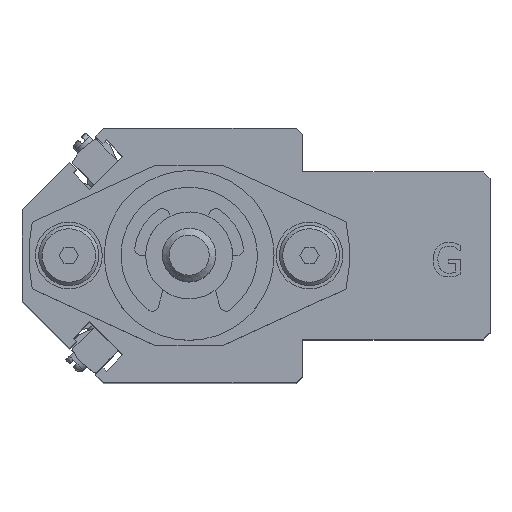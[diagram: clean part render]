
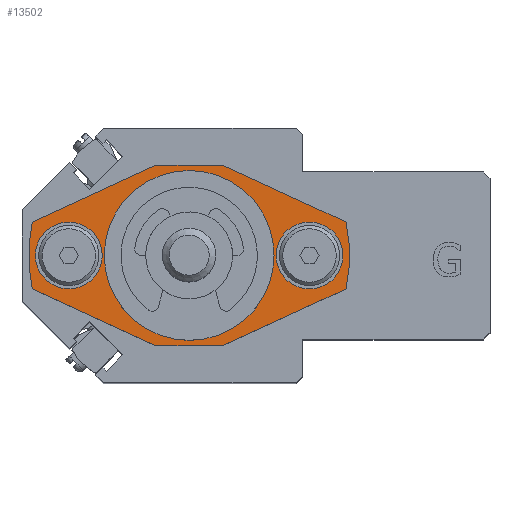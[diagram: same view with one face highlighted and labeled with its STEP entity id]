
A CAD part, top view. The second image highlights one B-rep face of the part: STEP entity #13502.
In plain terms, the highlighted planar face has unit normal (0, 0, 1).
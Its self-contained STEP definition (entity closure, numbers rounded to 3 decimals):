
#382=FACE_BOUND('',#4886,.T.);
#383=FACE_BOUND('',#4887,.T.);
#384=FACE_BOUND('',#4888,.T.);
#1575=LINE('',#22053,#2966);
#1582=LINE('',#22070,#2973);
#1583=LINE('',#22073,#2974);
#1584=LINE('',#22074,#2975);
#1585=LINE('',#22076,#2976);
#1586=LINE('',#22077,#2977);
#2966=VECTOR('',#17914,10.);
#2973=VECTOR('',#17929,10.);
#2974=VECTOR('',#17932,10.);
#2975=VECTOR('',#17933,10.);
#2976=VECTOR('',#17934,10.);
#2977=VECTOR('',#17935,10.);
#3457=CIRCLE('',#14782,10.5);
#3458=CIRCLE('',#14783,10.5);
#3465=CIRCLE('',#14794,24.);
#3467=CIRCLE('',#14797,24.);
#3470=CIRCLE('',#14804,5.);
#3471=CIRCLE('',#14805,5.);
#3472=CIRCLE('',#14806,5.);
#3473=CIRCLE('',#14807,5.);
#4176=FACE_OUTER_BOUND('',#4885,.T.);
#4885=EDGE_LOOP('',(#11285,#11286,#11287,#11288,#11289,#11290,#11291,#11292));
#4886=EDGE_LOOP('',(#11293,#11294));
#4887=EDGE_LOOP('',(#11295,#11296));
#4888=EDGE_LOOP('',(#11297,#11298));
#6121=VERTEX_POINT('',#22011);
#6122=VERTEX_POINT('',#22013);
#6130=VERTEX_POINT('',#22034);
#6131=VERTEX_POINT('',#22036);
#6134=VERTEX_POINT('',#22043);
#6135=VERTEX_POINT('',#22045);
#6137=VERTEX_POINT('',#22051);
#6143=VERTEX_POINT('',#22068);
#6144=VERTEX_POINT('',#22072);
#6145=VERTEX_POINT('',#22075);
#6146=VERTEX_POINT('',#22078);
#6147=VERTEX_POINT('',#22079);
#6148=VERTEX_POINT('',#22082);
#6149=VERTEX_POINT('',#22083);
#7907=EDGE_CURVE('',#6122,#6121,#3457,.T.);
#7908=EDGE_CURVE('',#6121,#6122,#3458,.T.);
#7917=EDGE_CURVE('',#6131,#6130,#3465,.T.);
#7921=EDGE_CURVE('',#6135,#6134,#3467,.T.);
#7925=EDGE_CURVE('',#6130,#6137,#1575,.T.);
#7934=EDGE_CURVE('',#6134,#6143,#1582,.T.);
#7935=EDGE_CURVE('',#6137,#6144,#1583,.T.);
#7936=EDGE_CURVE('',#6144,#6135,#1584,.T.);
#7937=EDGE_CURVE('',#6143,#6145,#1585,.T.);
#7938=EDGE_CURVE('',#6145,#6131,#1586,.T.);
#7939=EDGE_CURVE('',#6146,#6147,#3470,.T.);
#7940=EDGE_CURVE('',#6147,#6146,#3471,.T.);
#7941=EDGE_CURVE('',#6148,#6149,#3472,.T.);
#7942=EDGE_CURVE('',#6149,#6148,#3473,.T.);
#11285=ORIENTED_EDGE('',*,*,#7917,.T.);
#11286=ORIENTED_EDGE('',*,*,#7925,.T.);
#11287=ORIENTED_EDGE('',*,*,#7935,.T.);
#11288=ORIENTED_EDGE('',*,*,#7936,.T.);
#11289=ORIENTED_EDGE('',*,*,#7921,.T.);
#11290=ORIENTED_EDGE('',*,*,#7934,.T.);
#11291=ORIENTED_EDGE('',*,*,#7937,.T.);
#11292=ORIENTED_EDGE('',*,*,#7938,.T.);
#11293=ORIENTED_EDGE('',*,*,#7907,.T.);
#11294=ORIENTED_EDGE('',*,*,#7908,.T.);
#11295=ORIENTED_EDGE('',*,*,#7939,.T.);
#11296=ORIENTED_EDGE('',*,*,#7940,.T.);
#11297=ORIENTED_EDGE('',*,*,#7941,.T.);
#11298=ORIENTED_EDGE('',*,*,#7942,.T.);
#12704=PLANE('',#14803);
#13502=ADVANCED_FACE('',(#4176,#382,#383,#384),#12704,.T.);
#14782=AXIS2_PLACEMENT_3D('',#22014,#17873,#17874);
#14783=AXIS2_PLACEMENT_3D('',#22015,#17875,#17876);
#14794=AXIS2_PLACEMENT_3D('',#22037,#17899,#17900);
#14797=AXIS2_PLACEMENT_3D('',#22046,#17907,#17908);
#14803=AXIS2_PLACEMENT_3D('',#22071,#17930,#17931);
#14804=AXIS2_PLACEMENT_3D('',#22080,#17936,#17937);
#14805=AXIS2_PLACEMENT_3D('',#22081,#17938,#17939);
#14806=AXIS2_PLACEMENT_3D('',#22084,#17940,#17941);
#14807=AXIS2_PLACEMENT_3D('',#22085,#17942,#17943);
#17873=DIRECTION('center_axis',(0.,0.,-1.));
#17874=DIRECTION('ref_axis',(1.,0.,0.));
#17875=DIRECTION('center_axis',(0.,0.,-1.));
#17876=DIRECTION('ref_axis',(1.,0.,0.));
#17899=DIRECTION('center_axis',(0.,0.,1.));
#17900=DIRECTION('ref_axis',(0.978,-0.208,0.));
#17907=DIRECTION('center_axis',(0.,0.,1.));
#17908=DIRECTION('ref_axis',(-0.978,0.208,0.));
#17914=DIRECTION('',(0.908,-0.418,0.));
#17929=DIRECTION('',(-0.908,0.418,0.));
#17930=DIRECTION('center_axis',(0.,0.,1.));
#17931=DIRECTION('ref_axis',(1.,0.,0.));
#17932=DIRECTION('',(1.,0.,0.));
#17933=DIRECTION('',(0.908,0.418,0.));
#17934=DIRECTION('',(-1.,0.,0.));
#17935=DIRECTION('',(-0.908,-0.418,0.));
#17936=DIRECTION('center_axis',(0.,0.,-1.));
#17937=DIRECTION('ref_axis',(1.,0.,0.));
#17938=DIRECTION('center_axis',(0.,0.,-1.));
#17939=DIRECTION('ref_axis',(1.,0.,0.));
#17940=DIRECTION('center_axis',(0.,0.,-1.));
#17941=DIRECTION('ref_axis',(1.,0.,0.));
#17942=DIRECTION('center_axis',(0.,0.,-1.));
#17943=DIRECTION('ref_axis',(1.,0.,0.));
#22011=CARTESIAN_POINT('',(-10.5,0.,6.));
#22013=CARTESIAN_POINT('',(10.5,0.,6.));
#22014=CARTESIAN_POINT('Origin',(0.,0.,6.));
#22015=CARTESIAN_POINT('Origin',(0.,0.,6.));
#22034=CARTESIAN_POINT('',(-23.473,-5.001,6.));
#22036=CARTESIAN_POINT('',(-23.473,5.001,6.));
#22037=CARTESIAN_POINT('Origin',(0.,0.,6.));
#22043=CARTESIAN_POINT('',(23.473,5.001,6.));
#22045=CARTESIAN_POINT('',(23.473,-5.001,6.));
#22046=CARTESIAN_POINT('Origin',(0.,0.,6.));
#22051=CARTESIAN_POINT('',(-5.,-13.5,6.));
#22053=CARTESIAN_POINT('',(-15.7,-8.578,6.));
#22068=CARTESIAN_POINT('',(5.,13.5,6.));
#22070=CARTESIAN_POINT('',(15.7,8.578,6.));
#22071=CARTESIAN_POINT('Origin',(0.,0.,6.));
#22072=CARTESIAN_POINT('',(5.,-13.5,6.));
#22073=CARTESIAN_POINT('',(25.4,-13.5,6.));
#22074=CARTESIAN_POINT('',(15.7,-8.578,6.));
#22075=CARTESIAN_POINT('',(-5.,13.5,6.));
#22076=CARTESIAN_POINT('',(-25.4,13.5,6.));
#22077=CARTESIAN_POINT('',(-15.7,8.578,6.));
#22078=CARTESIAN_POINT('',(-13.,0.,6.));
#22079=CARTESIAN_POINT('',(-23.,0.,6.));
#22080=CARTESIAN_POINT('Origin',(-18.,0.,6.));
#22081=CARTESIAN_POINT('Origin',(-18.,0.,6.));
#22082=CARTESIAN_POINT('',(23.,0.,6.));
#22083=CARTESIAN_POINT('',(13.,0.,6.));
#22084=CARTESIAN_POINT('Origin',(18.,0.,6.));
#22085=CARTESIAN_POINT('Origin',(18.,0.,6.));
